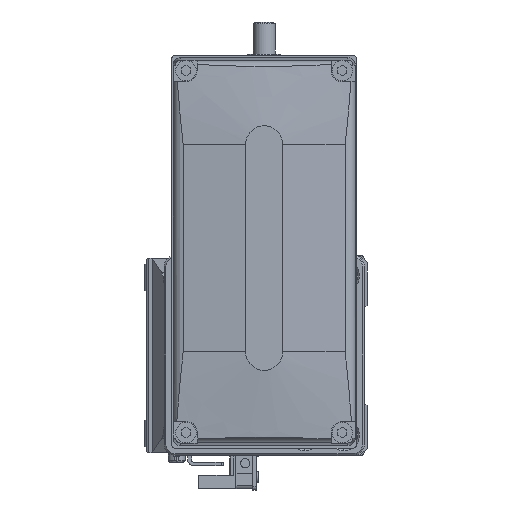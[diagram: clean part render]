
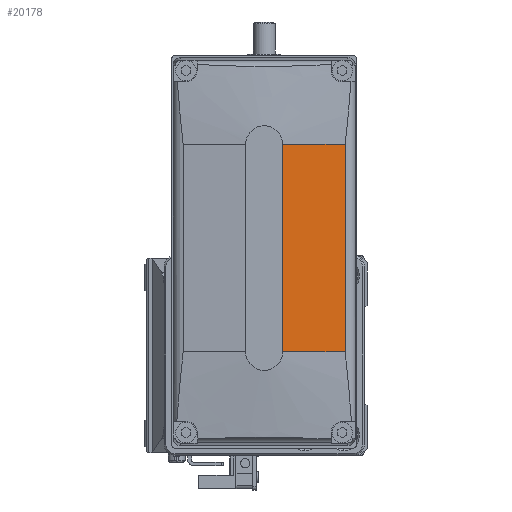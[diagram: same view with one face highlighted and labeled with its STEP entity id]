
A CAD part, left-side view. The second image highlights one B-rep face of the part: STEP entity #20178.
In plain terms, the highlighted planar face has unit normal (-0.996, -0.087, 0) as drawn and (-0.996, 0, -0.087) by its records, which use the part's own axes.
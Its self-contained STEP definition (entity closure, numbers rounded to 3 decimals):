
#278 = CARTESIAN_POINT ( 'NONE',  ( -50., 128., -5. ) ) ;
#345 = CARTESIAN_POINT ( 'NONE',  ( 43606.406, -28., -499000. ) ) ;
#1575 = CARTESIAN_POINT ( 'NONE',  ( -50., -28., -5. ) ) ;
#1702 = DIRECTION ( 'NONE',  ( 0., 1., 0. ) ) ;
#2047 = ORIENTED_EDGE ( 'NONE', *, *, #8509, .F. ) ;
#2251 = ORIENTED_EDGE ( 'NONE', *, *, #6466, .F. ) ;
#2422 = VERTEX_POINT ( 'NONE', #36273 ) ;
#3974 = VECTOR ( 'NONE', #1702, 1000. ) ;
#6466 = EDGE_CURVE ( 'NONE', #15910, #19067, #31017, .T. ) ;
#6917 = LINE ( 'NONE', #345, #13569 ) ;
#7680 = LINE ( 'NONE', #30632, #8953 ) ;
#8493 = CARTESIAN_POINT ( 'NONE',  ( -48.525, 28., -21.861 ) ) ;
#8509 = EDGE_CURVE ( 'NONE', #2422, #15910, #27386, .T. ) ;
#8953 = VECTOR ( 'NONE', #16594, 1000. ) ;
#11114 = DIRECTION ( 'NONE',  ( -0.087, 0., 0.996 ) ) ;
#11701 = DIRECTION ( 'NONE',  ( -0.996, 0., -0.087 ) ) ;
#12197 = ORIENTED_EDGE ( 'NONE', *, *, #12432, .F. ) ;
#12432 = EDGE_CURVE ( 'NONE', #25023, #2422, #6917, .T. ) ;
#13569 = VECTOR ( 'NONE', #17548, 1000. ) ;
#15910 = VERTEX_POINT ( 'NONE', #8493 ) ;
#16594 = DIRECTION ( 'NONE',  ( 0., 1., 0. ) ) ;
#17208 = ORIENTED_EDGE ( 'NONE', *, *, #26533, .T. ) ;
#17548 = DIRECTION ( 'NONE',  ( 0.087, 0., -0.996 ) ) ;
#18618 = CARTESIAN_POINT ( 'NONE',  ( -50., 28., -5. ) ) ;
#19067 = VERTEX_POINT ( 'NONE', #18618 ) ;
#20178 = ADVANCED_FACE ( 'NONE', ( #27108 ), #20197, .T. ) ;
#20197 = PLANE ( 'NONE',  #28349 ) ;
#22652 = VECTOR ( 'NONE', #33591, 1000. ) ;
#25023 = VERTEX_POINT ( 'NONE', #1575 ) ;
#26497 = CARTESIAN_POINT ( 'NONE',  ( -48.525, 128., -21.861 ) ) ;
#26533 = EDGE_CURVE ( 'NONE', #25023, #19067, #7680, .T. ) ;
#27108 = FACE_OUTER_BOUND ( 'NONE', #30411, .T. ) ;
#27386 = LINE ( 'NONE', #26497, #3974 ) ;
#28002 = CARTESIAN_POINT ( 'NONE',  ( 43606.406, 28., -499000. ) ) ;
#28349 = AXIS2_PLACEMENT_3D ( 'NONE', #278, #11701, #11114 ) ;
#30411 = EDGE_LOOP ( 'NONE', ( #2251, #2047, #12197, #17208 ) ) ;
#30632 = CARTESIAN_POINT ( 'NONE',  ( -50., 128., -5. ) ) ;
#31017 = LINE ( 'NONE', #28002, #22652 ) ;
#33591 = DIRECTION ( 'NONE',  ( -0.087, 0., 0.996 ) ) ;
#36273 = CARTESIAN_POINT ( 'NONE',  ( -48.525, -28., -21.861 ) ) ;
